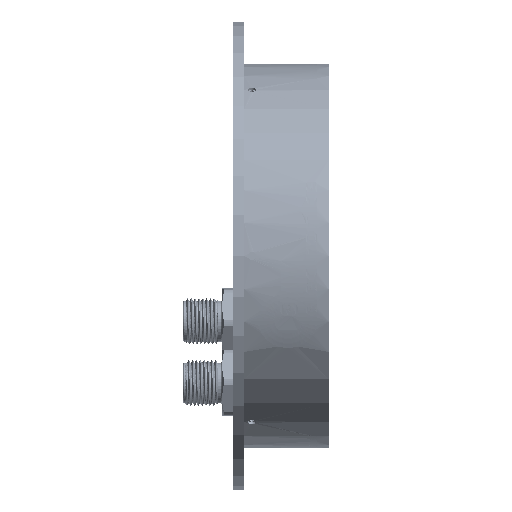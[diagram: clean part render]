
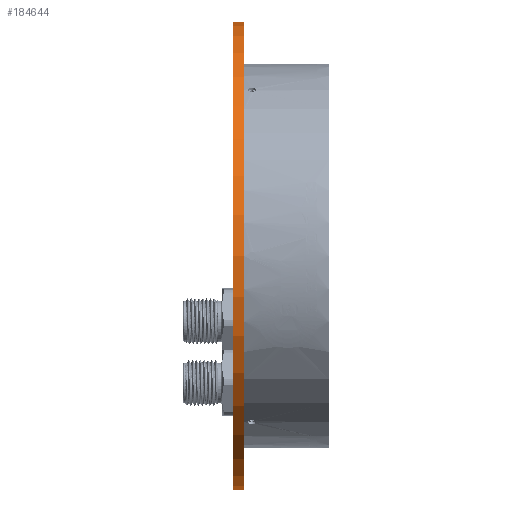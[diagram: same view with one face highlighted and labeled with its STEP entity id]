
A CAD part, front view. The second image highlights one B-rep face of the part: STEP entity #184644.
In plain terms, the highlighted cylindrical face has radius 61 mm (diameter 122 mm), a partial arc.
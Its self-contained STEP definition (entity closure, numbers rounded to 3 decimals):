
#21815 = CIRCLE ( 'NONE', #218719, 61. ) ;
#23039 = ORIENTED_EDGE ( 'NONE', *, *, #121174, .F. ) ;
#26973 = DIRECTION ( 'NONE',  ( 1., 0., 0. ) ) ;
#29021 = ORIENTED_EDGE ( 'NONE', *, *, #239132, .F. ) ;
#31187 = EDGE_CURVE ( 'NONE', #59438, #278150, #64052, .T. ) ;
#45046 = CYLINDRICAL_SURFACE ( 'NONE', #151841, 61. ) ;
#59438 = VERTEX_POINT ( 'NONE', #137756 ) ;
#64052 = LINE ( 'NONE', #134746, #147462 ) ;
#64646 = DIRECTION ( 'NONE',  ( 0., 0., -1. ) ) ;
#70444 = DIRECTION ( 'NONE',  ( 1., 0., 0. ) ) ;
#84583 = VERTEX_POINT ( 'NONE', #286580 ) ;
#103117 = DIRECTION ( 'NONE',  ( 1., 0., 0. ) ) ;
#113328 = CARTESIAN_POINT ( 'NONE',  ( 0., 0., -61. ) ) ;
#121174 = EDGE_CURVE ( 'NONE', #193102, #278150, #21815, .T. ) ;
#124231 = AXIS2_PLACEMENT_3D ( 'NONE', #266290, #290291, #64646 ) ;
#128079 = EDGE_CURVE ( 'NONE', #84583, #59438, #133644, .T. ) ;
#133644 = CIRCLE ( 'NONE', #124231, 61. ) ;
#134356 = CARTESIAN_POINT ( 'NONE',  ( 0., 0., 61. ) ) ;
#134746 = CARTESIAN_POINT ( 'NONE',  ( 63.419, 0., -61. ) ) ;
#137756 = CARTESIAN_POINT ( 'NONE',  ( -3., 0., -61. ) ) ;
#143552 = VECTOR ( 'NONE', #103117, 1000. ) ;
#147462 = VECTOR ( 'NONE', #155808, 1000. ) ;
#151841 = AXIS2_PLACEMENT_3D ( 'NONE', #231590, #26973, #157888 ) ;
#155808 = DIRECTION ( 'NONE',  ( 1., 0., 0. ) ) ;
#157888 = DIRECTION ( 'NONE',  ( 0., 0., -1. ) ) ;
#177476 = ORIENTED_EDGE ( 'NONE', *, *, #31187, .T. ) ;
#184644 = ADVANCED_FACE ( 'NONE', ( #251171 ), #45046, .T. ) ;
#185341 = ORIENTED_EDGE ( 'NONE', *, *, #128079, .T. ) ;
#193102 = VERTEX_POINT ( 'NONE', #134356 ) ;
#197807 = CARTESIAN_POINT ( 'NONE',  ( 63.419, 0., 61. ) ) ;
#208793 = CARTESIAN_POINT ( 'NONE',  ( 0., 0., 0. ) ) ;
#210295 = DIRECTION ( 'NONE',  ( 0., 0., -1. ) ) ;
#218719 = AXIS2_PLACEMENT_3D ( 'NONE', #208793, #70444, #210295 ) ;
#231590 = CARTESIAN_POINT ( 'NONE',  ( 63.419, 0., 0. ) ) ;
#239132 = EDGE_CURVE ( 'NONE', #84583, #193102, #241516, .T. ) ;
#239281 = EDGE_LOOP ( 'NONE', ( #29021, #185341, #177476, #23039 ) ) ;
#241516 = LINE ( 'NONE', #197807, #143552 ) ;
#251171 = FACE_OUTER_BOUND ( 'NONE', #239281, .T. ) ;
#266290 = CARTESIAN_POINT ( 'NONE',  ( -3., 0., 0. ) ) ;
#278150 = VERTEX_POINT ( 'NONE', #113328 ) ;
#286580 = CARTESIAN_POINT ( 'NONE',  ( -3., 0., 61. ) ) ;
#290291 = DIRECTION ( 'NONE',  ( 1., 0., 0. ) ) ;
